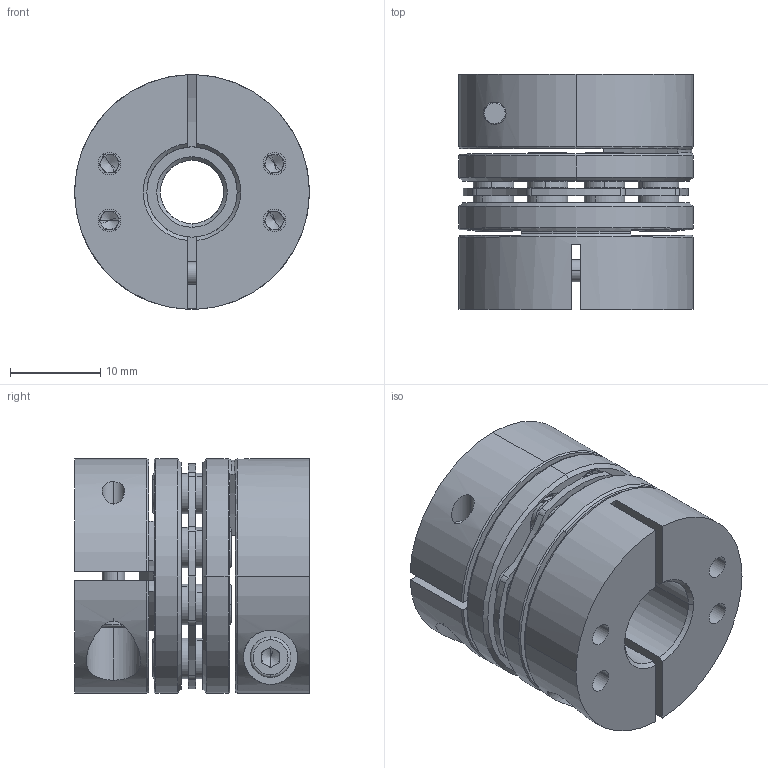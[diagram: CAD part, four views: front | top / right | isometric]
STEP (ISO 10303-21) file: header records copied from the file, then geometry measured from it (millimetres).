
FILE_DESCRIPTION (( 'STEP AP203' ), '1' );
FILE_NAME ('LDG-D26-7-10.STEP', '2021-10-28T03:28:59', ( '' ), ( '' ), 'SwSTEP 2.0', 'SolidWorks 2018', '' );
FILE_SCHEMA (( 'CONFIG_CONTROL_DESIGN' ));
Length unit declared in the file: millimetre
Products named in the file (2): LDG-D26-7-10; 錨璃2^LDG-D26蚾饜芞1
Assembly tree (1 placements, depth 2):
  LDG-D26-7-10
    錨璃2^LDG-D26蚾饜芞1
Bounding box: 26 x 26 x 26 mm (x, y, z)
Volume: 9953.5 mm3; surface area: 9003.2 mm2
Topology: 1 solids, 21 shells, 765 faces, 1872 edges, 1159 vertices
Faces by surface type: cylinder 301, plane 244, cone 200, torus 20
Entity records: 23057 total; most frequent: DIRECTION 4281, CARTESIAN_POINT 4164, ORIENTED_EDGE 3688, EDGE_CURVE 1844, AXIS2_PLACEMENT_3D 1740, VERTEX_POINT 1159, CIRCLE 971, EDGE_LOOP 909
